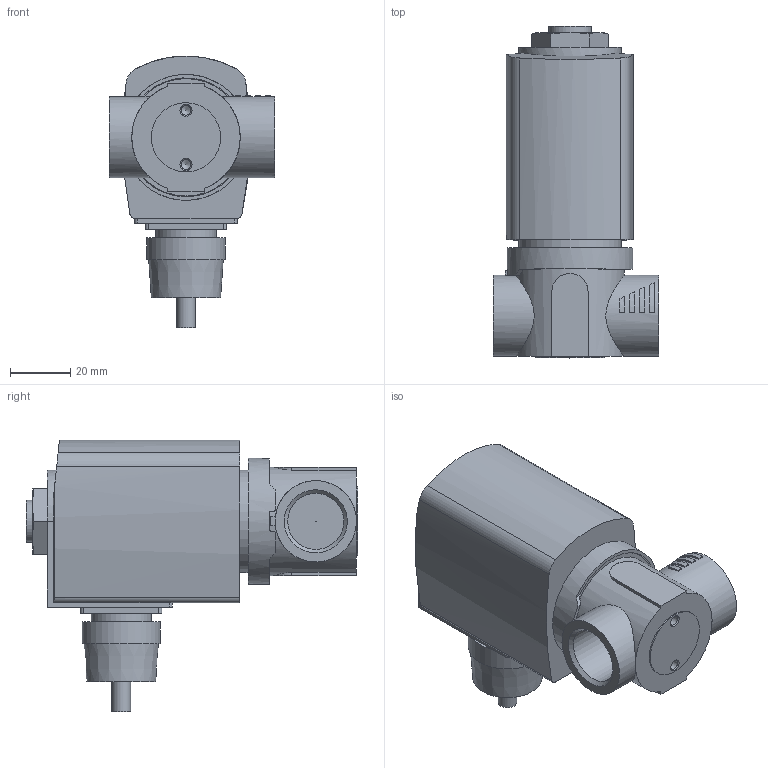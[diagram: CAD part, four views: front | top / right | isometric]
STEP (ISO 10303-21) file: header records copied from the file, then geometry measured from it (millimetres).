
FILE_DESCRIPTION(/* description */ ('STEP AP214'),/* implementation_level */ '2;1');
FILE_NAME(/* name */ '6027-A-6-FKM___FKM-VA-G_1_2-42-230___UC',/* time_stamp */ '2024-10-01T10:14:50+02:00',/* author */ ('License CC BY-ND 4.0'),/* organization */ ('CADENAS'),/* preprocessor_version */ 'ST-DEVELOPER v19.3',/* originating_system */ 'PARTsolutions',/* authorisation */ ' ');
FILE_SCHEMA (('AUTOMOTIVE_DESIGN {1 0 10303 214 3 1 1}'));
Length unit declared in the file: millimetre
Products named in the file (3): 6027-A-6-FKM / FKM-VA-G 1/2-42-230 / UC; AC10ex-42ATEXKabelPlan-Coil; V027-Gehaeuse G 1/2 1 1 VA G55 6 1
Assembly tree (2 placements, depth 2):
  6027-A-6-FKM / FKM-VA-G 1/2-42-230 / UC
    AC10ex-42ATEXKabelPlan-Coil
    V027-Gehaeuse G 1/2 1 1 VA G55 6 1
Bounding box: 55 x 110.2 x 90.3 mm (x, y, z)
Volume: 196115.9 mm3; surface area: 30893.4 mm2
Topology: 2 solids, 2 shells, 127 faces, 304 edges, 198 vertices
Faces by surface type: plane 71, cylinder 43, cone 13
Full cylindrical faces by diameter (mm): 0.2 x1, 3.242 x2, 6.2 x1, 14 x1, 18.631 x2, 20 x1, 23 x1, 26 x1, 27 x2, 34 x1, 36 x1, 39 x1, 39.5 x1, 41.8 x1
Entity records: 4038 total; most frequent: CARTESIAN_POINT 738, DIRECTION 621, ORIENTED_EDGE 542, EDGE_CURVE 271, AXIS2_PLACEMENT_3D 249, VERTEX_POINT 191, FACE_BOUND 172, EDGE_LOOP 170
